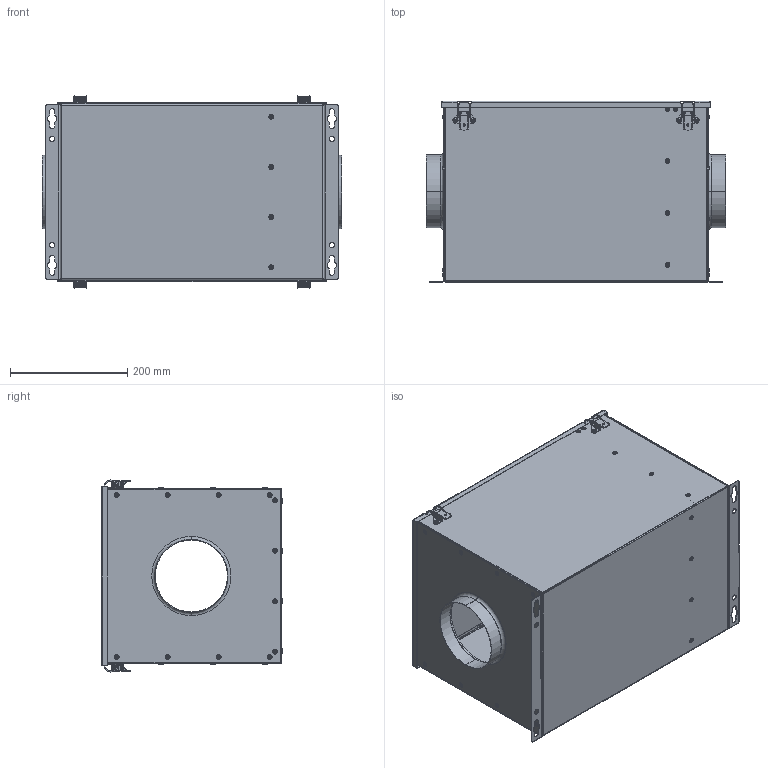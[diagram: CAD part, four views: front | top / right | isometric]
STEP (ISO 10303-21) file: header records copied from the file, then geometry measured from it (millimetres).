
FILE_DESCRIPTION (( 'STEP AP203' ), '1' );
FILE_NAME ('112843-01_FT125_step.step', '2020-08-26T08:18:08', ( '' ), ( '' ), 'SwSTEP 2.0', 'SolidWorks 2017', '' );
FILE_SCHEMA (( 'CONFIG_CONTROL_DESIGN' ));
Length unit declared in the file: millimetre
Products named in the file (1): 112843-01_FT125_step
Bounding box: 510 x 309.3 x 327.58 mm (x, y, z)
Surface area: 1429187.5 mm2 (no closed solid volume)
Topology: 0 solids, 76 shells, 782 faces, 2386 edges, 1612 vertices
Faces by surface type: cylinder 376, plane 222, torus 100, bspline 84
Entity records: 28590 total; most frequent: CARTESIAN_POINT 6637, DIRECTION 5060, ORIENTED_EDGE 3928, EDGE_CURVE 2386, AXIS2_PLACEMENT_3D 2035, VERTEX_POINT 1612, CIRCLE 1336, VECTOR 990
